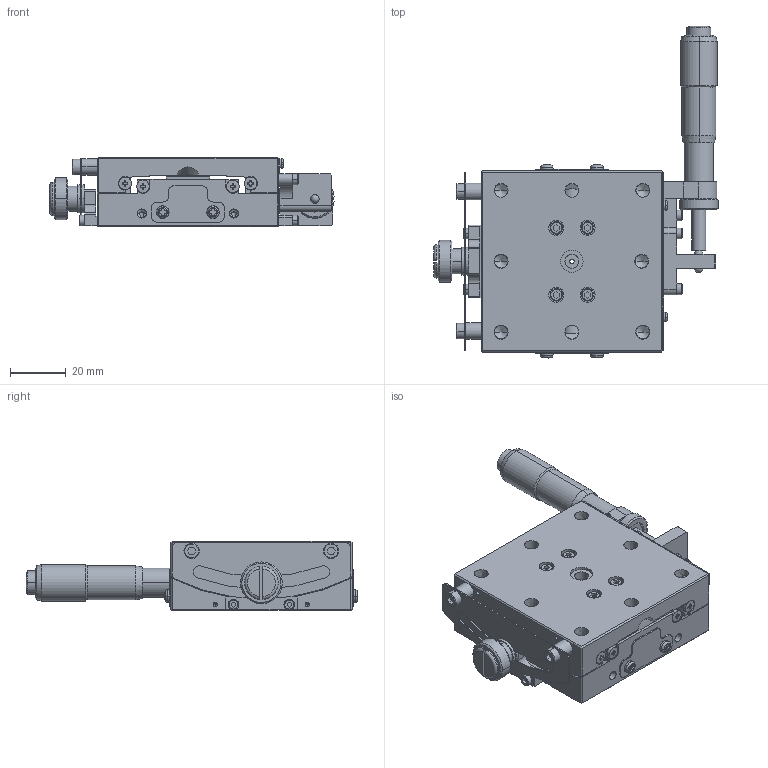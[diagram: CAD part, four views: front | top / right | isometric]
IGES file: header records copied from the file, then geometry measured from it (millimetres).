
Global section: file name: No Iges File Name specified; native system: AutoDesk Inventor R12.0; preprocessor: AutoDesk Inventor Iges Exporter R12.0; date: 20140409.172959; units: millimetre
Bounding box: 101.93 x 119 x 25 mm (x, y, z)
Volume: 89421.2 mm3; surface area: 47145.1 mm2
Topology: 2 solids, 45 shells, 1409 faces, 3536 edges, 2231 vertices
Faces by surface type: plane 588, bspline 383, cylinder 208, cone 114, revolution 75, sphere 27, torus 14
